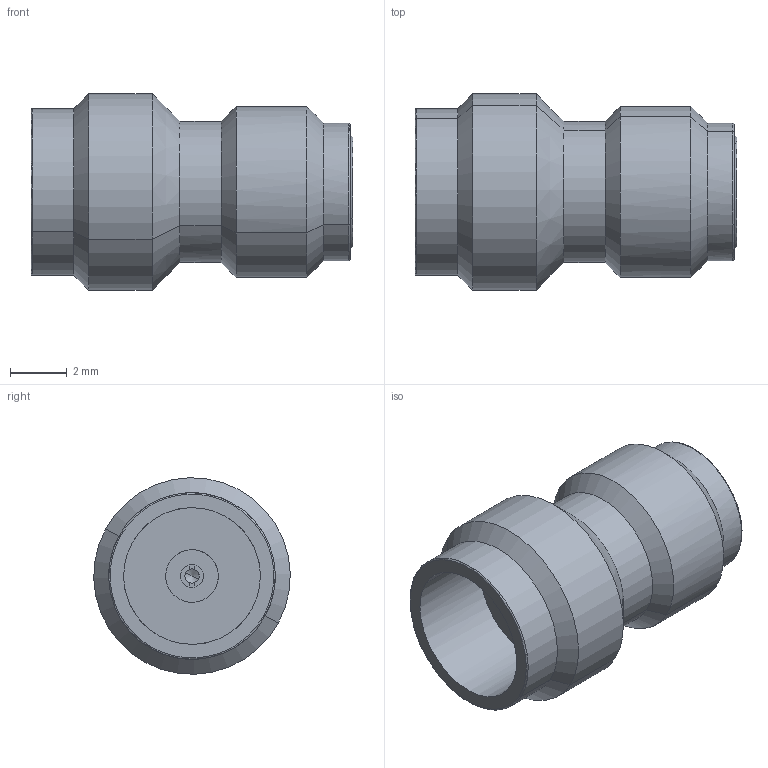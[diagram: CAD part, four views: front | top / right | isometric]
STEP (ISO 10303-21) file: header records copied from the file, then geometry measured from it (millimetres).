
FILE_DESCRIPTION(('CATIA V5 STEP Exchange'),'2;1');
FILE_NAME('C:\Documents and Settings\Administrator\桌面\98-02-9A5-005(REV.A).stp','2013-05-13T06:42:44+00:00',('none'),('none'),'CATIA Version 5 Release 17 (IN-10)','CATIA V5 STEP AP203','none');
FILE_SCHEMA(('CONFIG_CONTROL_DESIGN'));
Length unit declared in the file: millimetre
Products named in the file (1): 98-02-9A5-005(REV.A)
Bounding box: 11.3 x 6.9 x 6.9 mm (x, y, z)
Volume: 246.1 mm3; surface area: 358.3 mm2
Topology: 1 solids, 1 shells, 64 faces, 150 edges, 90 vertices
Faces by surface type: cylinder 24, plane 22, cone 14, torus 4
Entity records: 2061 total; most frequent: CARTESIAN_POINT 696, ORIENTED_EDGE 292, DIRECTION 219, EDGE_CURVE 146, AXIS2_PLACEMENT_3D 97, VERTEX_POINT 90, VECTOR 70, EDGE_LOOP 70
